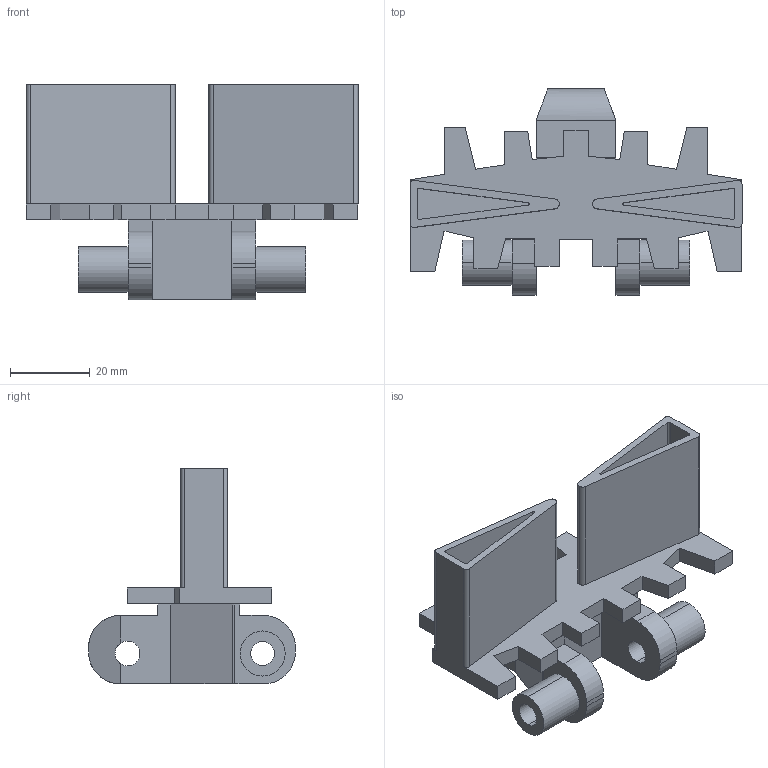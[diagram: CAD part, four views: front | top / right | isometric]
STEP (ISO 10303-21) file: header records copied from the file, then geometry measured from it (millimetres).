
FILE_DESCRIPTION (( 'STEP AP214' ), '1' );
FILE_NAME ('FMCT 5A30.step', '2017-04-04T13:34:23', ( '' ), ( '' ), 'SwSTEP 2.0', 'SolidWorks 2015', '' );
FILE_SCHEMA (( 'AUTOMOTIVE_DESIGN' ));
Length unit declared in the file: millimetre
Products named in the file (1): FMCT 5A30
Bounding box: 83 x 51.7 x 54 mm (x, y, z)
Volume: 33750.3 mm3; surface area: 20547.3 mm2
Topology: 1 solids, 1 shells, 124 faces, 348 edges, 228 vertices
Faces by surface type: plane 92, cylinder 32
Entity records: 4004 total; most frequent: CARTESIAN_POINT 719, ORIENTED_EDGE 696, DIRECTION 654, EDGE_CURVE 348, LINE 280, VECTOR 280, VERTEX_POINT 228, AXIS2_PLACEMENT_3D 187
